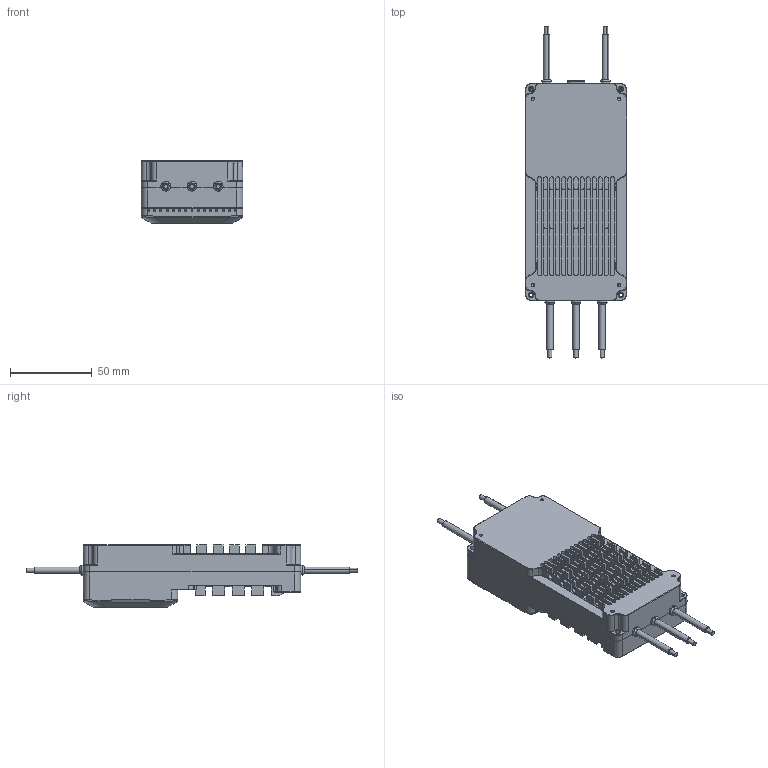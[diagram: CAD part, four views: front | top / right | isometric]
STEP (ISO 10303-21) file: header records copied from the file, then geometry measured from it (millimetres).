
FILE_DESCRIPTION (( 'STEP AP203' ), '1' );
FILE_NAME ('V120A-24S.STEP', '2025-09-08T03:30:16', ( '微软用户' ), ( '微软中国' ), 'SwSTEP 2.0', 'SolidWorks 2022', '' );
FILE_SCHEMA (( 'CONFIG_CONTROL_DESIGN' ));
Length unit declared in the file: millimetre
Products named in the file (6): V120A-24S电调下盖-A; 12AWG（线径4mm，max6）; 4mm三项; 信号线，编码器线（4mm）护线圈; V120A-24S; V120A-24S电调上盖-A
Assembly tree (13 placements, depth 2):
  V120A-24S
    V120A-24S电调上盖-A
    V120A-24S电调下盖-A
    4mm三项  x5
    12AWG（线径4mm，max6）  x5
    信号线，编码器线（4mm）护线圈
Bounding box: 62 x 203 x 38 mm (x, y, z)
Volume: 62190.2 mm3; surface area: 86960.4 mm2
Topology: 13 solids, 13 shells, 1320 faces, 3676 edges, 2395 vertices
Faces by surface type: plane 874, cylinder 359, cone 61, bspline 16, torus 10
Entity records: 41680 total; most frequent: CARTESIAN_POINT 8496, ORIENTED_EDGE 6984, DIRECTION 6479, EDGE_CURVE 3492, VECTOR 2745, LINE 2745, VERTEX_POINT 2291, AXIS2_PLACEMENT_3D 1867
